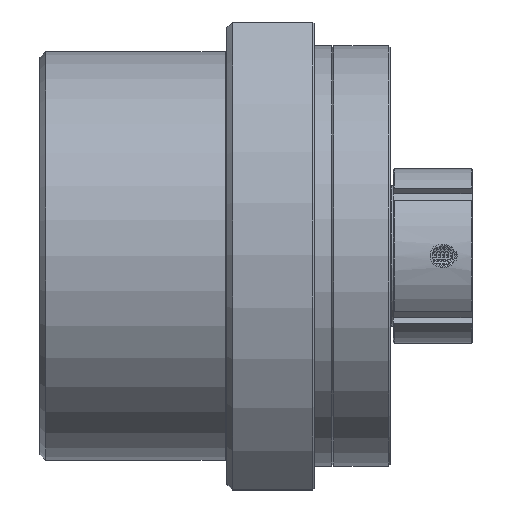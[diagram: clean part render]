
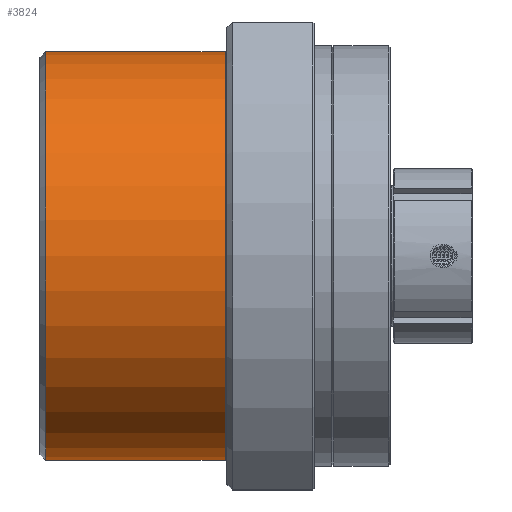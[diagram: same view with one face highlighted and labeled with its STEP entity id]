
A CAD part, top view. The second image highlights one B-rep face of the part: STEP entity #3824.
In plain terms, the highlighted cylindrical face has radius 35 mm (diameter 70 mm), a full revolution.
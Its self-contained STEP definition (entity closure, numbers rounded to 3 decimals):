
#3824=ADVANCED_FACE('',(#10074,#10075),#10076,.T.);
#4160=EDGE_CURVE('',#10634,#10634,#10635,.T.);
#7450=EDGE_CURVE('',#15723,#15723,#15724,.T.);
#10074=FACE_OUTER_BOUND('',#19637,.T.);
#10075=FACE_OUTER_BOUND('',#19638,.T.);
#10076=CYLINDRICAL_SURFACE('',#19639,35.0);
#10634=VERTEX_POINT('',#20530);
#10635=CIRCLE('',#20531,35.0);
#15723=VERTEX_POINT('',#29267);
#15724=CIRCLE('',#29268,35.0);
#19637=EDGE_LOOP('',(#33062));
#19638=EDGE_LOOP('',(#33063));
#19639=AXIS2_PLACEMENT_3D('',#33064,#33065,#33066);
#20530=CARTESIAN_POINT('',(31.7,0.0,35.0));
#20531=AXIS2_PLACEMENT_3D('',#33777,#33778,#33779);
#29267=CARTESIAN_POINT('',(1.0,0.0,35.0));
#29268=AXIS2_PLACEMENT_3D('',#40070,#40071,#40072);
#33062=ORIENTED_EDGE('',*,*,#7450,.T.);
#33063=ORIENTED_EDGE('',*,*,#4160,.F.);
#33064=CARTESIAN_POINT('',(16.35,0.0,0.0));
#33065=DIRECTION('',(-1.0,0.0,0.0));
#33066=DIRECTION('',(0.0,0.0,1.0));
#33777=CARTESIAN_POINT('',(31.7,0.0,0.0));
#33778=DIRECTION('',(1.0,0.0,-0.0));
#33779=DIRECTION('',(0.0,0.0,1.0));
#40070=CARTESIAN_POINT('',(1.0,0.0,0.0));
#40071=DIRECTION('',(1.0,0.0,-0.0));
#40072=DIRECTION('',(0.0,0.0,1.0));
